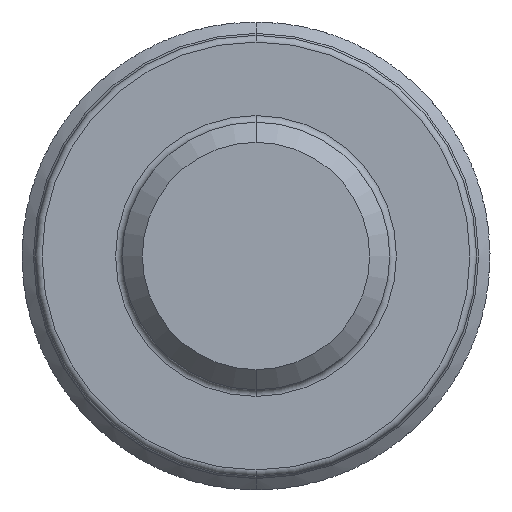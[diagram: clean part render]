
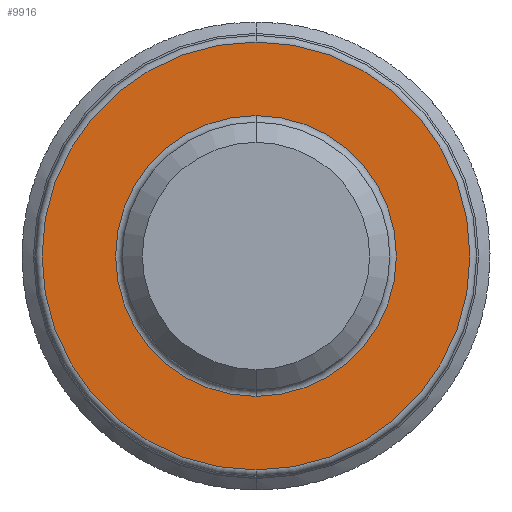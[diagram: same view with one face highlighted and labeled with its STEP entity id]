
A CAD part, front view. The second image highlights one B-rep face of the part: STEP entity #9916.
In plain terms, the highlighted planar face has unit normal (0, -1, 0).
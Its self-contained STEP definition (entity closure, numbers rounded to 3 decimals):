
#120 = DIRECTION ( 'NONE',  ( 0., 1., 0. ) ) ;
#332 = EDGE_CURVE ( 'NONE', #2119, #6100, #1229, .T. ) ;
#471 = CARTESIAN_POINT ( 'NONE',  ( 0., -4., -2.1 ) ) ;
#878 = CARTESIAN_POINT ( 'NONE',  ( 0., -4., 2.1 ) ) ;
#979 = EDGE_CURVE ( 'NONE', #2909, #8064, #9986, .T. ) ;
#1046 = ORIENTED_EDGE ( 'NONE', *, *, #332, .T. ) ;
#1116 = DIRECTION ( 'NONE',  ( 0., 0., -1. ) ) ;
#1229 = CIRCLE ( 'NONE', #6750, 3.2 ) ;
#1238 = ORIENTED_EDGE ( 'NONE', *, *, #979, .T. ) ;
#1461 = CARTESIAN_POINT ( 'NONE',  ( 0., -4., 0. ) ) ;
#1501 = CARTESIAN_POINT ( 'NONE',  ( 2., -4., 0. ) ) ;
#1702 = DIRECTION ( 'NONE',  ( 0., 1., 0. ) ) ;
#2106 = EDGE_CURVE ( 'NONE', #6100, #2119, #5802, .T. ) ;
#2119 = VERTEX_POINT ( 'NONE', #4267 ) ;
#2423 = DIRECTION ( 'NONE',  ( 0., -1., 0. ) ) ;
#2646 = CARTESIAN_POINT ( 'NONE',  ( 0., -4., 0. ) ) ;
#2909 = VERTEX_POINT ( 'NONE', #878 ) ;
#2930 = EDGE_LOOP ( 'NONE', ( #7247, #1046 ) ) ;
#3270 = CARTESIAN_POINT ( 'NONE',  ( 0., -4., 0. ) ) ;
#3510 = DIRECTION ( 'NONE',  ( 0., 0., -1. ) ) ;
#3809 = EDGE_CURVE ( 'NONE', #8064, #2909, #7983, .T. ) ;
#3952 = DIRECTION ( 'NONE',  ( 0., 0., -1. ) ) ;
#4267 = CARTESIAN_POINT ( 'NONE',  ( 0., -4., 3.2 ) ) ;
#4669 = PLANE ( 'NONE',  #8024 ) ;
#4808 = DIRECTION ( 'NONE',  ( 0., 0., -1. ) ) ;
#5559 = ORIENTED_EDGE ( 'NONE', *, *, #3809, .T. ) ;
#5802 = CIRCLE ( 'NONE', #6773, 3.2 ) ;
#6100 = VERTEX_POINT ( 'NONE', #7953 ) ;
#6179 = FACE_OUTER_BOUND ( 'NONE', #2930, .T. ) ;
#6545 = DIRECTION ( 'NONE',  ( 0., -1., 0. ) ) ;
#6637 = DIRECTION ( 'NONE',  ( 0., -1., 0. ) ) ;
#6750 = AXIS2_PLACEMENT_3D ( 'NONE', #2646, #6545, #1116 ) ;
#6773 = AXIS2_PLACEMENT_3D ( 'NONE', #9009, #6637, #3510 ) ;
#7220 = DIRECTION ( 'NONE',  ( 0., 0., -1. ) ) ;
#7247 = ORIENTED_EDGE ( 'NONE', *, *, #2106, .T. ) ;
#7953 = CARTESIAN_POINT ( 'NONE',  ( 0., -4., -3.2 ) ) ;
#7983 = CIRCLE ( 'NONE', #9442, 2.1 ) ;
#8024 = AXIS2_PLACEMENT_3D ( 'NONE', #1501, #2423, #3952 ) ;
#8064 = VERTEX_POINT ( 'NONE', #471 ) ;
#8203 = AXIS2_PLACEMENT_3D ( 'NONE', #1461, #1702, #4808 ) ;
#8700 = EDGE_LOOP ( 'NONE', ( #5559, #1238 ) ) ;
#9009 = CARTESIAN_POINT ( 'NONE',  ( 0., -4., 0. ) ) ;
#9299 = FACE_BOUND ( 'NONE', #8700, .T. ) ;
#9442 = AXIS2_PLACEMENT_3D ( 'NONE', #3270, #120, #7220 ) ;
#9916 = ADVANCED_FACE ( 'NONE', ( #9299, #6179 ), #4669, .T. ) ;
#9986 = CIRCLE ( 'NONE', #8203, 2.1 ) ;
